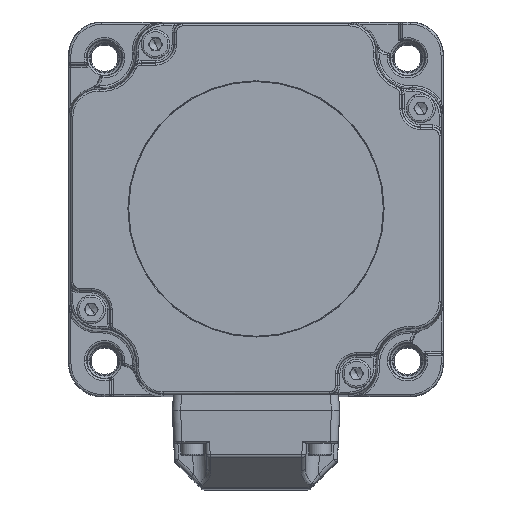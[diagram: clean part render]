
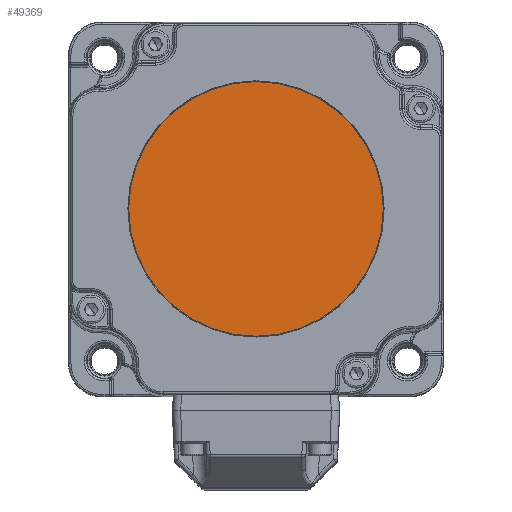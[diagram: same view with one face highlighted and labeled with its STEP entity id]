
A CAD part, top view. The second image highlights one B-rep face of the part: STEP entity #49369.
In plain terms, the highlighted planar face has unit normal (0, 0, 1).
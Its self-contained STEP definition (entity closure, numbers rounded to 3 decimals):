
#215 = VERTEX_POINT ( 'NONE', #11448 ) ;
#1068 = EDGE_CURVE ( 'NONE', #19722, #215, #74951, .T. ) ;
#7773 = DIRECTION ( 'NONE',  ( 0., 0., 1. ) ) ;
#11285 = AXIS2_PLACEMENT_3D ( 'NONE', #27523, #55882, #84316 ) ;
#11448 = CARTESIAN_POINT ( 'NONE',  ( -30.9, 0., 8.8 ) ) ;
#12329 = CARTESIAN_POINT ( 'NONE',  ( 0., 0., 8.8 ) ) ;
#14737 = FACE_OUTER_BOUND ( 'NONE', #73431, .T. ) ;
#18987 = AXIS2_PLACEMENT_3D ( 'NONE', #71504, #7773, #36108 ) ;
#19722 = VERTEX_POINT ( 'NONE', #91047 ) ;
#27523 = CARTESIAN_POINT ( 'NONE',  ( 0., 0., 8.8 ) ) ;
#30535 = CIRCLE ( 'NONE', #82576, 30.9 ) ;
#36108 = DIRECTION ( 'NONE',  ( 1., 0., 0. ) ) ;
#40724 = DIRECTION ( 'NONE',  ( 0., 0., 1. ) ) ;
#43109 = PLANE ( 'NONE',  #18987 ) ;
#49369 = ADVANCED_FACE ( 'NONE', ( #14737 ), #43109, .T. ) ;
#55882 = DIRECTION ( 'NONE',  ( 0., 0., 1. ) ) ;
#60454 = EDGE_CURVE ( 'NONE', #215, #19722, #30535, .T. ) ;
#65573 = ORIENTED_EDGE ( 'NONE', *, *, #60454, .T. ) ;
#69108 = DIRECTION ( 'NONE',  ( 1., 0., 0. ) ) ;
#71504 = CARTESIAN_POINT ( 'NONE',  ( 0., 0., 8.8 ) ) ;
#73431 = EDGE_LOOP ( 'NONE', ( #82700, #65573 ) ) ;
#74951 = CIRCLE ( 'NONE', #11285, 30.9 ) ;
#82576 = AXIS2_PLACEMENT_3D ( 'NONE', #12329, #40724, #69108 ) ;
#82700 = ORIENTED_EDGE ( 'NONE', *, *, #1068, .T. ) ;
#84316 = DIRECTION ( 'NONE',  ( 1., 0., 0. ) ) ;
#91047 = CARTESIAN_POINT ( 'NONE',  ( 30.9, 0., 8.8 ) ) ;
